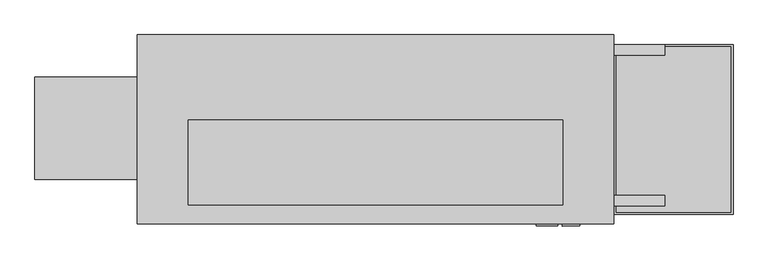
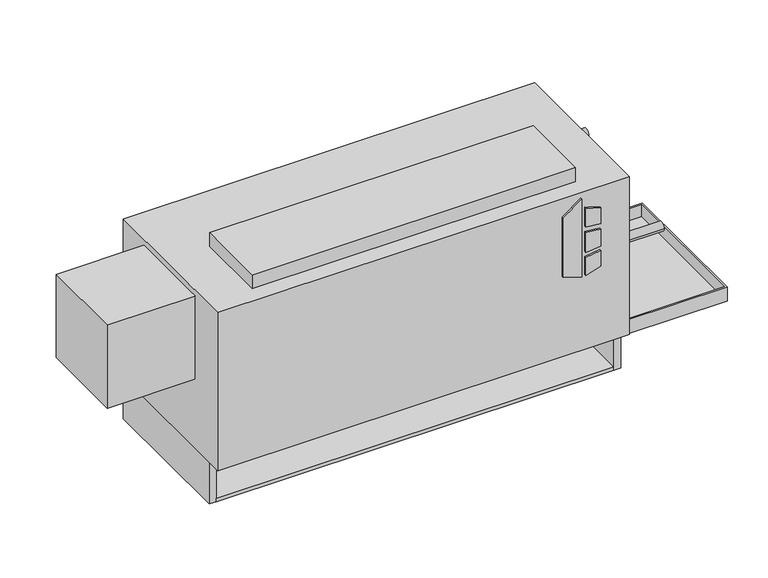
"""IFC4 building model written with IfcOpenShell, lengths in millimetres: proxy geometry, Concealed_Vertical_Low_Boy_Fan_Coil_Unit Fan_-_LHA_-_IEC_-_2-Pipe_RH_2022 : Size 03 - 277v/60Hz/1Ph - 2/1 Coil."""

from ifc_helpers import new_model, si_unit, point, frame, frame_2d, origin, origin_with_axes, place, context, project, spatial, polyline, circle_curve, trimmed, segment, composite_curve, outline, extrude, faceted_brep, source, transform, mapped, element, save


def mechanical_equipment_e07a9757(model_context):
    return source(origin(), model_context, "Body", "SolidModel", [
        faceted_brep([(1041.4, -252.4125, 92.075), (863.6, -252.4125, 92.075), (863.6, -506.4125, 92.075), (1041.4, -506.4125, 92.075), (866.775, -255.5875, 92.075), (1038.225, -255.5875, 92.075), (1038.225, -503.2375, 92.075), (866.775, -503.2375, 92.075), (1041.4, -252.4125, 66.675), (1041.4, -506.4125, 66.675), (863.6, -506.4125, 66.675), (863.6, -252.4125, 66.675), (1038.225, -255.5875, 69.8497888), (866.775, -255.5875, 69.8497888), (866.775, -503.2375, 69.8497888), (1038.225, -503.2375, 69.8497888)], [[[0, 1, 2, 3], [4, 5, 6, 7]], [[8, 9, 10, 11]], [[1, 0, 8, 11]], [[2, 1, 11, 10]], [[3, 2, 10, 9]], [[0, 3, 9, 8]], [[12, 13, 14, 15]], [[13, 12, 5, 4]], [[14, 13, 4, 7]], [[15, 14, 7, 6]], [[12, 15, 6, 5]]]),
        extrude(outline(composite_curve([segment(trimmed(circle_curve(frame_2d((952.5, -379.4125)), 9.525), [point((942.975, -379.4125))], [point((962.025, -379.4125))], False, "CARTESIAN"), True, "CONTINUOUS"), segment(trimmed(circle_curve(frame_2d((952.5, -379.4125)), 9.525), [point((962.025, -379.4125))], [point((942.975, -379.4125))], False, "CARTESIAN"), True, "CONTINUOUS")], self_intersect=False)), frame((0.0, 0.0, 41.275), z_axis=(0.0, 0.0, 1.0), x_axis=(1.0, 0.0, 0.0)), (0.0, 0.0, 1.0), 25.4),
        extrude(outline(polyline([(222.6730703, 747.7868862), (212.725, 779.9602728), (354.8959244, 779.9602728), (331.8739183, 747.7868862), (222.6730703, 747.7868862)])), frame((0.0, -523.875, 0.0), z_axis=(0.0, 1.0, 0.0), x_axis=(0.0, 0.0, 1.0)), (0.0, 0.0, 1.0), 3.175),
        extrude(outline(polyline([(301.6723557, 786.7186058), (298.4699632, 812.8), (327.6988042, 812.8), (335.7632193, 786.7186058), (301.6723557, 786.7186058)])), frame((0.0, -523.875, 0.0), z_axis=(0.0, 1.0, 0.0), x_axis=(0.0, 0.0, 1.0)), (0.0, 0.0, 1.0), 3.175),
        extrude(outline(polyline([(249.8088288, 812.8), (246.1433279, 786.7186058), (212.725, 786.7186058), (221.3592372, 812.8), (249.8088288, 812.8)])), frame((0.0, -523.875, 0.0), z_axis=(0.0, 1.0, 0.0), x_axis=(0.0, 0.0, 1.0)), (0.0, 0.0, 1.0), 3.175),
        extrude(outline(polyline([(289.1239903, 812.8), (291.4058166, 786.7186058), (255.4682681, 786.7186058), (258.2095331, 812.8), (289.1239903, 812.8)])), frame((0.0, -523.875, 0.0), z_axis=(0.0, 1.0, 0.0), x_axis=(0.0, 0.0, 1.0)), (0.0, 0.0, 1.0), 3.175),
        extrude(outline(polyline([(787.4, -365.125), (787.4, -492.125), (228.6, -492.125), (228.6, -365.125), (787.4, -365.125)])), frame((0.0, 0.0, 365.125), z_axis=(0.0, 0.0, 1.0), x_axis=(1.0, 0.0, 0.0)), (0.0, 0.0, 1.0), 25.4),
        extrude(outline(polyline([(863.6, -520.7), (152.4, -520.7), (152.4, -238.125), (863.6, -238.125), (863.6, -520.7)])), frame((0.0, 0.0, 76.2), z_axis=(0.0, 0.0, 1.0), x_axis=(1.0, 0.0, 0.0)), (0.0, 0.0, 1.0), 288.925),
        extrude(outline(polyline([(850.9, -495.3), (165.1, -495.3), (165.1, -244.475), (850.9, -244.475), (850.9, -495.3)])), origin_with_axes(), (0.0, 0.0, 1.0), 6.35),
        extrude(outline(polyline([(850.9, -238.125), (850.9, -244.475), (165.1, -244.475), (165.1, -238.125), (850.9, -238.125)])), origin_with_axes(), (0.0, 0.0, 1.0), 76.2),
        extrude(outline(polyline([(863.6, -238.125), (863.6, -495.3), (850.9, -495.3), (850.9, -238.125), (863.6, -238.125)])), origin_with_axes(), (0.0, 0.0, 1.0), 76.2),
        extrude(outline(polyline([(165.1, -238.125), (165.1, -495.3), (152.4, -495.3), (152.4, -238.125), (165.1, -238.125)])), origin_with_axes(), (0.0, 0.0, 1.0), 76.2),
        extrude(outline(composite_curve([segment(trimmed(circle_curve(frame_2d((-260.35, 260.35)), 7.9375), [point((-252.4125, 260.35))], [point((-268.2875, 260.35))], False, "CARTESIAN"), True, "CONTINUOUS"), segment(trimmed(circle_curve(frame_2d((-260.35, 260.35)), 7.9375), [point((-268.2875, 260.35))], [point((-252.4125, 260.35))], False, "CARTESIAN"), True, "CONTINUOUS")], self_intersect=False)), frame((863.6, 0.0, 0.0), z_axis=(1.0, 0.0, 0.0), x_axis=(0.0, 1.0, 0.0)), (0.0, 0.0, 1.0), 76.2),
        extrude(outline(composite_curve([segment(trimmed(circle_curve(frame_2d((-485.775, 227.0125)), 7.9375), [point((-477.8375, 227.0125))], [point((-493.7125, 227.0125))], False, "CARTESIAN"), True, "CONTINUOUS"), segment(trimmed(circle_curve(frame_2d((-485.775, 227.0125)), 7.9375), [point((-493.7125, 227.0125))], [point((-477.8375, 227.0125))], False, "CARTESIAN"), True, "CONTINUOUS")], self_intersect=False)), frame((863.6, 0.0, 0.0), z_axis=(1.0, 0.0, 0.0), x_axis=(0.0, 1.0, 0.0)), (0.0, 0.0, 1.0), 76.2),
        extrude(outline(polyline([(0.0, -301.625), (152.4, -301.625), (152.4, -454.025), (0.0, -454.025), (0.0, -301.625)])), frame((0.0, 0.0, 203.5632719), z_axis=(0.0, 0.0, 1.0), x_axis=(1.0, 0.0, 0.0)), (0.0, 0.0, 1.0), 152.0367281),
    ])


if __name__ == "__main__":
    model = new_model("IFC4")
    model_context = context("Model", 3, world=origin())
    ifc_project = project(units=[si_unit("LENGTHUNIT", "METRE", prefix="MILLI")], contexts=[model_context])
    site = spatial("IfcSite", under=ifc_project)
    building = spatial("IfcBuilding", under=site)
    placement = place(None, origin())
    mechanical_equipment_shape = mechanical_equipment_e07a9757(model_context)
    element("IfcBuildingElementProxy", 1, Name="Concealed_Vertical_Low_Boy_Fan_Coil_Unit Fan_-_LHA_-_IEC_-_2-Pipe_RH_2022 : Size 03 - 277v/60Hz/1Ph - 2/1 Coil", ObjectType="Concealed_Vertical_Low_Boy_Fan_Coil_Unit Fan_-_LHA_-_IEC_-_2-Pipe_RH_2022 : Size 03 - 277v/60Hz/1Ph - 2/1 Coil", at=placement, inside=building, context=model_context, shape_type="MappedRepresentation", body=[
        mapped(mechanical_equipment_shape, transform((0.0, 0.0, 0.0), x_axis=(1.0, 0.0, 0.0), y_axis=(0.0, 1.0, 0.0), z_axis=(0.0, 0.0, 1.0))),
    ])
    save(model, "model.ifc")
